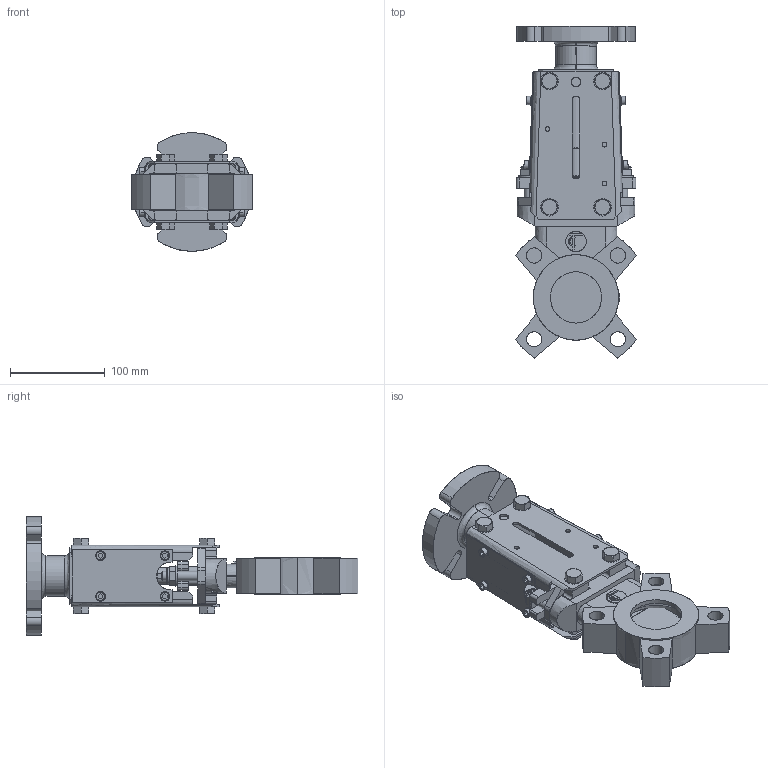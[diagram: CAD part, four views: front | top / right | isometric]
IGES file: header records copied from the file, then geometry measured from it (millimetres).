
Start section: SolidWorks IGES file using analytic representation for surfaces
Global section: file name: D:\part\3D Projects\VG-ELECTRICAL MOTOR(DN50-600)\AUMA\VG E A DN50\VG E A DN50.IGS; native system: SolidWorks 2009; preprocessor: SolidWorks 2009; author: zhixin.zheng; date: 100331.132711; units: millimetre
Bounding box: 127.6 x 349.8 x 125 mm (x, y, z)
Surface area: 248385.1 mm2 (no closed solid volume)
Topology: 0 solids, 0 shells, 801 faces, 9116 edges, 9116 vertices
Faces by surface type: bspline 464, revolution 337
